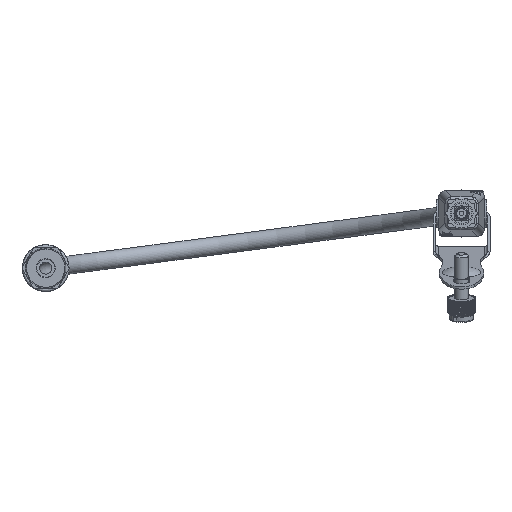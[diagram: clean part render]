
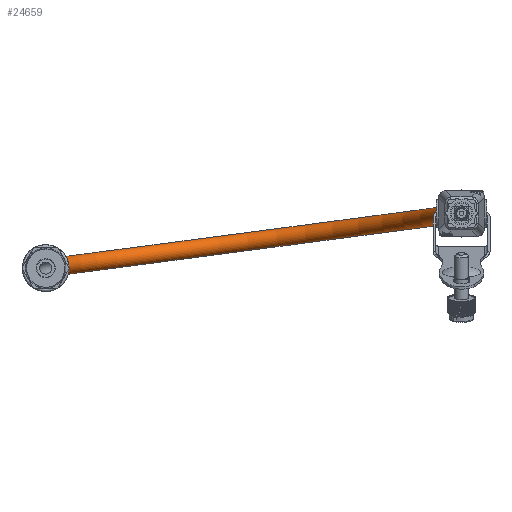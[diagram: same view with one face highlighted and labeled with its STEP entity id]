
A CAD part, left-side view. The second image highlights one B-rep face of the part: STEP entity #24659.
In plain terms, the highlighted toroidal (fillet/blend) face has major radius 73.063 mm and minor radius 3.137 mm.
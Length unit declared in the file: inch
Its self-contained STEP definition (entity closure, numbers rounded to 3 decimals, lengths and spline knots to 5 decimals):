
#24628=CARTESIAN_POINT('',(0.1235,5.753,4.0));
#24629=VERTEX_POINT('',#24628);
#24630=CARTESIAN_POINT('',(0.0,5.753,4.0));
#24631=DIRECTION('',(0.0,0.0,1.0));
#24632=DIRECTION('',(-1.0,0.0,0.0));
#24633=AXIS2_PLACEMENT_3D('',#24630,#24631,#24632);
#24634=CIRCLE('',#24633,0.1235);
#24635=EDGE_CURVE('',#24629,#24629,#24634,.T.);
#24640=CARTESIAN_POINT('',(0.0,2.8765,4.0));
#24641=DIRECTION('',(-1.0,0.0,0.0));
#24642=DIRECTION('',(0.0,0.0,1.0));
#24643=AXIS2_PLACEMENT_3D('',#24640,#24641,#24642);
#24644=TOROIDAL_SURFACE('',#24643,2.8765,0.1235);
#24645=ORIENTED_EDGE('',*,*,#24635,.T.);
#24646=EDGE_LOOP('',(#24645));
#24647=FACE_OUTER_BOUND('',#24646,.T.);
#24648=CARTESIAN_POINT('',(0.1235,0.,4.0));
#24649=VERTEX_POINT('',#24648);
#24650=CARTESIAN_POINT('',(0.0,0.0,4.0));
#24651=DIRECTION('',(0.0,0.0,-1.0));
#24652=DIRECTION('',(-1.0,0.0,0.0));
#24653=AXIS2_PLACEMENT_3D('',#24650,#24651,#24652);
#24654=CIRCLE('',#24653,0.1235);
#24655=EDGE_CURVE('',#24649,#24649,#24654,.T.);
#24656=ORIENTED_EDGE('',*,*,#24655,.F.);
#24657=EDGE_LOOP('',(#24656));
#24658=FACE_BOUND('',#24657,.T.);
#24659=ADVANCED_FACE('',(#24647,#24658),#24644,.T.);
